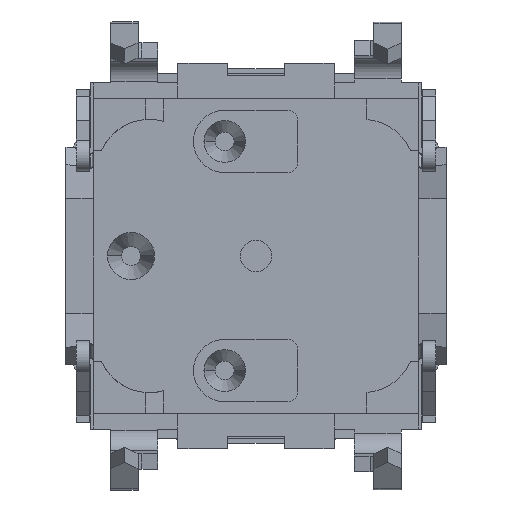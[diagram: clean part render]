
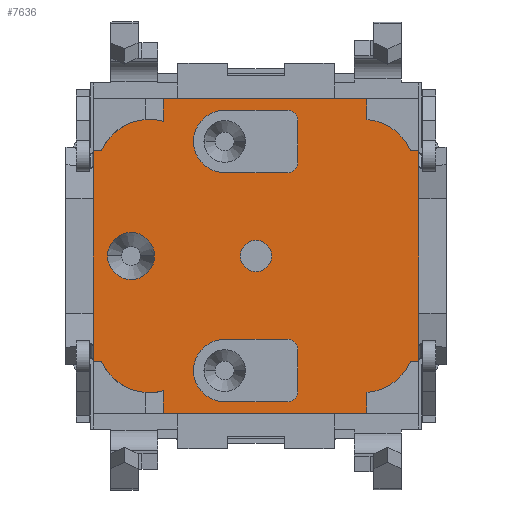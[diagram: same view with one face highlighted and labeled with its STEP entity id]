
A CAD part, front view. The second image highlights one B-rep face of the part: STEP entity #7636.
In plain terms, the highlighted planar face has unit normal (0, -1, 0).
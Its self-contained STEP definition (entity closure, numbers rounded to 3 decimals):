
#30=CARTESIAN_POINT('',(-2.05,-1.11,1.625));
#31=DIRECTION('',(0.,-1.,0.));
#32=DIRECTION('',(0.27,0.,0.963));
#33=AXIS2_PLACEMENT_3D('',#30,#31,#32);
#48=DIRECTION('',(0.,0.,1.));
#49=VECTOR('',#48,0.432);
#50=CARTESIAN_POINT('',(-1.78,-1.11,2.588));
#51=LINE('',#50,#49);
#52=DIRECTION('',(0.,0.,1.));
#53=VECTOR('',#52,0.398);
#54=CARTESIAN_POINT('',(2.13,-1.11,2.622));
#55=LINE('',#54,#53);
#56=CARTESIAN_POINT('',(2.05,-1.11,1.625));
#57=DIRECTION('',(0.,-1.,0.));
#58=DIRECTION('',(0.919,0.,0.395));
#59=AXIS2_PLACEMENT_3D('',#56,#57,#58);
#61=DIRECTION('',(-1.,0.,0.));
#62=VECTOR('',#61,0.161);
#63=CARTESIAN_POINT('',(3.13,-1.11,2.02));
#64=LINE('',#63,#62);
#65=DIRECTION('',(1.,0.,0.));
#66=VECTOR('',#65,0.161);
#67=CARTESIAN_POINT('',(2.969,-1.11,-2.02));
#68=LINE('',#67,#66);
#69=CARTESIAN_POINT('',(2.05,-1.11,-1.625));
#70=DIRECTION('',(0.,-1.,0.));
#71=DIRECTION('',(0.08,0.,-0.997));
#72=AXIS2_PLACEMENT_3D('',#69,#70,#71);
#74=DIRECTION('',(0.,0.,1.));
#75=VECTOR('',#74,0.398);
#76=CARTESIAN_POINT('',(2.13,-1.11,-3.02));
#77=LINE('',#76,#75);
#78=DIRECTION('',(0.,0.,1.));
#79=VECTOR('',#78,0.432);
#80=CARTESIAN_POINT('',(-1.78,-1.11,-3.02));
#81=LINE('',#80,#79);
#82=DIRECTION('',(1.,0.,0.));
#83=VECTOR('',#82,0.161);
#84=CARTESIAN_POINT('',(-3.13,-1.11,-2.02));
#85=LINE('',#84,#83);
#86=DIRECTION('',(-1.,0.,0.));
#87=VECTOR('',#86,0.161);
#88=CARTESIAN_POINT('',(-2.969,-1.11,2.02));
#89=LINE('',#88,#87);
#90=CARTESIAN_POINT('',(-2.4,-1.11,0.));
#91=DIRECTION('',(0.,1.,0.));
#92=DIRECTION('',(1.,0.,0.));
#93=AXIS2_PLACEMENT_3D('',#90,#91,#92);
#95=CARTESIAN_POINT('',(-2.4,-1.11,0.));
#96=DIRECTION('',(0.,-1.,0.));
#97=DIRECTION('',(1.,0.,0.));
#98=AXIS2_PLACEMENT_3D('',#95,#96,#97);
#100=CARTESIAN_POINT('',(0.,-1.11,0.));
#101=DIRECTION('',(0.,-1.,0.));
#102=DIRECTION('',(-1.,0.,0.));
#103=AXIS2_PLACEMENT_3D('',#100,#101,#102);
#105=CARTESIAN_POINT('',(0.,-1.11,0.));
#106=DIRECTION('',(0.,-1.,0.));
#107=DIRECTION('',(1.,0.,0.));
#108=AXIS2_PLACEMENT_3D('',#105,#106,#107);
#110=DIRECTION('',(1.,0.,0.));
#111=VECTOR('',#110,1.2);
#112=CARTESIAN_POINT('',(-0.6,-1.11,-2.8));
#113=LINE('',#112,#111);
#114=DIRECTION('',(0.,0.,1.));
#115=VECTOR('',#114,0.8);
#116=CARTESIAN_POINT('',(0.8,-1.11,-2.6));
#117=LINE('',#116,#115);
#118=DIRECTION('',(-1.,0.,0.));
#119=VECTOR('',#118,1.2);
#120=CARTESIAN_POINT('',(0.6,-1.11,-1.6));
#121=LINE('',#120,#119);
#122=CARTESIAN_POINT('',(-0.6,-1.11,-2.2));
#123=DIRECTION('',(0.,-1.,0.));
#124=DIRECTION('',(0.,0.,1.));
#125=AXIS2_PLACEMENT_3D('',#122,#123,#124);
#127=DIRECTION('',(0.,0.,1.));
#128=VECTOR('',#127,0.8);
#129=CARTESIAN_POINT('',(0.8,-1.11,1.8));
#130=LINE('',#129,#128);
#131=DIRECTION('',(-1.,0.,0.));
#132=VECTOR('',#131,1.2);
#133=CARTESIAN_POINT('',(0.6,-1.11,2.8));
#134=LINE('',#133,#132);
#135=CARTESIAN_POINT('',(-0.6,-1.11,2.2));
#136=DIRECTION('',(0.,-1.,0.));
#137=DIRECTION('',(0.,0.,1.));
#138=AXIS2_PLACEMENT_3D('',#135,#136,#137);
#140=DIRECTION('',(1.,0.,0.));
#141=VECTOR('',#140,1.2);
#142=CARTESIAN_POINT('',(-0.6,-1.11,1.6));
#143=LINE('',#142,#141);
#168=DIRECTION('',(-1.,0.,0.));
#169=VECTOR('',#168,3.91);
#170=CARTESIAN_POINT('',(2.13,-1.11,3.02));
#171=LINE('',#170,#169);
#204=DIRECTION('',(0.,0.,-1.));
#205=VECTOR('',#204,4.04);
#206=CARTESIAN_POINT('',(-3.13,-1.11,2.02));
#207=LINE('',#206,#205);
#332=DIRECTION('',(1.,0.,0.));
#333=VECTOR('',#332,3.91);
#334=CARTESIAN_POINT('',(-1.78,-1.11,-3.02));
#335=LINE('',#334,#333);
#381=CARTESIAN_POINT('',(-2.05,-1.11,-1.625));
#382=DIRECTION('',(0.,-1.,0.));
#383=DIRECTION('',(-0.919,0.,-0.395));
#384=AXIS2_PLACEMENT_3D('',#381,#382,#383);
#448=DIRECTION('',(0.,0.,1.));
#449=VECTOR('',#448,4.04);
#450=CARTESIAN_POINT('',(3.13,-1.11,-2.02));
#451=LINE('',#450,#449);
#5619=CARTESIAN_POINT('',(0.6,-1.11,-2.6));
#5620=DIRECTION('',(0.,1.,0.));
#5621=DIRECTION('',(1.,0.,0.));
#5622=AXIS2_PLACEMENT_3D('',#5619,#5620,#5621);
#5637=CARTESIAN_POINT('',(0.6,-1.11,-1.8));
#5638=DIRECTION('',(0.,1.,0.));
#5639=DIRECTION('',(0.,0.,1.));
#5640=AXIS2_PLACEMENT_3D('',#5637,#5638,#5639);
#5704=CARTESIAN_POINT('',(0.6,-1.11,2.6));
#5705=DIRECTION('',(0.,1.,0.));
#5706=DIRECTION('',(0.,0.,1.));
#5707=AXIS2_PLACEMENT_3D('',#5704,#5705,#5706);
#5749=CARTESIAN_POINT('',(0.6,-1.11,1.8));
#5750=DIRECTION('',(0.,1.,0.));
#5751=DIRECTION('',(1.,0.,0.));
#5752=AXIS2_PLACEMENT_3D('',#5749,#5750,#5751);
#5839=CARTESIAN_POINT('',(-0.6,-1.11,-1.6));
#5840=VERTEX_POINT('',#5839);
#5841=CARTESIAN_POINT('',(-0.6,-1.11,-2.8));
#5842=VERTEX_POINT('',#5841);
#5897=CARTESIAN_POINT('',(-0.6,-1.11,2.8));
#5898=VERTEX_POINT('',#5897);
#5899=CARTESIAN_POINT('',(-0.6,-1.11,1.6));
#5900=VERTEX_POINT('',#5899);
#5909=CARTESIAN_POINT('',(2.969,-1.11,2.02));
#5910=CARTESIAN_POINT('',(2.13,-1.11,2.622));
#5911=VERTEX_POINT('',#5909);
#5912=VERTEX_POINT('',#5910);
#5913=CARTESIAN_POINT('',(2.13,-1.11,-2.622));
#5914=CARTESIAN_POINT('',(2.969,-1.11,-2.02));
#5915=VERTEX_POINT('',#5913);
#5916=VERTEX_POINT('',#5914);
#6015=CARTESIAN_POINT('',(0.6,-1.11,-1.6));
#6017=VERTEX_POINT('',#6015);
#6019=CARTESIAN_POINT('',(0.8,-1.11,-1.8));
#6021=VERTEX_POINT('',#6019);
#6023=CARTESIAN_POINT('',(0.8,-1.11,-2.6));
#6025=VERTEX_POINT('',#6023);
#6027=CARTESIAN_POINT('',(0.6,-1.11,-2.8));
#6029=VERTEX_POINT('',#6027);
#6031=CARTESIAN_POINT('',(0.6,-1.11,2.8));
#6033=VERTEX_POINT('',#6031);
#6035=CARTESIAN_POINT('',(0.8,-1.11,2.6));
#6037=VERTEX_POINT('',#6035);
#6039=CARTESIAN_POINT('',(0.8,-1.11,1.8));
#6041=VERTEX_POINT('',#6039);
#6043=CARTESIAN_POINT('',(0.6,-1.11,1.6));
#6045=VERTEX_POINT('',#6043);
#6047=CARTESIAN_POINT('',(-3.13,-1.11,2.02));
#6048=CARTESIAN_POINT('',(-3.13,-1.11,-2.02));
#6049=VERTEX_POINT('',#6047);
#6050=VERTEX_POINT('',#6048);
#6051=CARTESIAN_POINT('',(3.13,-1.11,-2.02));
#6052=CARTESIAN_POINT('',(3.13,-1.11,2.02));
#6053=VERTEX_POINT('',#6051);
#6054=VERTEX_POINT('',#6052);
#6055=CARTESIAN_POINT('',(-2.969,-1.11,2.02));
#6056=VERTEX_POINT('',#6055);
#6057=CARTESIAN_POINT('',(2.13,-1.11,3.02));
#6058=VERTEX_POINT('',#6057);
#6059=CARTESIAN_POINT('',(-2.969,-1.11,-2.02));
#6060=VERTEX_POINT('',#6059);
#6061=CARTESIAN_POINT('',(2.13,-1.11,-3.02));
#6062=VERTEX_POINT('',#6061);
#6117=CARTESIAN_POINT('',(-1.78,-1.11,2.588));
#6118=CARTESIAN_POINT('',(-1.78,-1.11,3.02));
#6119=VERTEX_POINT('',#6117);
#6120=VERTEX_POINT('',#6118);
#6125=CARTESIAN_POINT('',(-1.78,-1.11,-3.02));
#6126=CARTESIAN_POINT('',(-1.78,-1.11,-2.588));
#6127=VERTEX_POINT('',#6125);
#6128=VERTEX_POINT('',#6126);
#6145=CARTESIAN_POINT('',(-0.3,-1.11,0.));
#6146=CARTESIAN_POINT('',(0.3,-1.11,0.));
#6147=VERTEX_POINT('',#6145);
#6148=VERTEX_POINT('',#6146);
#6165=CARTESIAN_POINT('',(-1.95,-1.11,0.));
#6166=CARTESIAN_POINT('',(-2.85,-1.11,0.));
#6167=VERTEX_POINT('',#6165);
#6168=VERTEX_POINT('',#6166);
#7560=CARTESIAN_POINT('',(0.,-1.11,0.));
#7561=DIRECTION('',(0.,-1.,0.));
#7562=DIRECTION('',(1.,0.,0.));
#7563=AXIS2_PLACEMENT_3D('',#7560,#7561,#7562);
#7564=PLANE('',#7563);
#7565=ORIENTED_EDGE('',*,*,#7551,.T.);
#7567=ORIENTED_EDGE('',*,*,#7566,.F.);
#7569=ORIENTED_EDGE('',*,*,#7568,.F.);
#7571=ORIENTED_EDGE('',*,*,#7570,.F.);
#7573=ORIENTED_EDGE('',*,*,#7572,.F.);
#7575=ORIENTED_EDGE('',*,*,#7574,.F.);
#7577=ORIENTED_EDGE('',*,*,#7576,.F.);
#7579=ORIENTED_EDGE('',*,*,#7578,.F.);
#7581=ORIENTED_EDGE('',*,*,#7580,.F.);
#7583=ORIENTED_EDGE('',*,*,#7582,.F.);
#7585=ORIENTED_EDGE('',*,*,#7584,.T.);
#7587=ORIENTED_EDGE('',*,*,#7586,.F.);
#7589=ORIENTED_EDGE('',*,*,#7588,.F.);
#7591=ORIENTED_EDGE('',*,*,#7590,.F.);
#7592=ORIENTED_EDGE('',*,*,#7509,.F.);
#7593=ORIENTED_EDGE('',*,*,#7525,.F.);
#7594=EDGE_LOOP('',(#7565,#7567,#7569,#7571,#7573,#7575,#7577,#7579,#7581,#7583,
#7585,#7587,#7589,#7591,#7592,#7593));
#7595=FACE_OUTER_BOUND('',#7594,.F.);
#7597=ORIENTED_EDGE('',*,*,#7596,.F.);
#7599=ORIENTED_EDGE('',*,*,#7598,.T.);
#7600=EDGE_LOOP('',(#7597,#7599));
#7601=FACE_BOUND('',#7600,.F.);
#7603=ORIENTED_EDGE('',*,*,#7602,.T.);
#7605=ORIENTED_EDGE('',*,*,#7604,.T.);
#7606=EDGE_LOOP('',(#7603,#7605));
#7607=FACE_BOUND('',#7606,.F.);
#7609=ORIENTED_EDGE('',*,*,#7608,.T.);
#7611=ORIENTED_EDGE('',*,*,#7610,.F.);
#7613=ORIENTED_EDGE('',*,*,#7612,.T.);
#7615=ORIENTED_EDGE('',*,*,#7614,.F.);
#7617=ORIENTED_EDGE('',*,*,#7616,.T.);
#7619=ORIENTED_EDGE('',*,*,#7618,.T.);
#7620=EDGE_LOOP('',(#7609,#7611,#7613,#7615,#7617,#7619));
#7621=FACE_BOUND('',#7620,.F.);
#7623=ORIENTED_EDGE('',*,*,#7622,.T.);
#7625=ORIENTED_EDGE('',*,*,#7624,.F.);
#7627=ORIENTED_EDGE('',*,*,#7626,.T.);
#7629=ORIENTED_EDGE('',*,*,#7628,.T.);
#7631=ORIENTED_EDGE('',*,*,#7630,.T.);
#7633=ORIENTED_EDGE('',*,*,#7632,.F.);
#7634=EDGE_LOOP('',(#7623,#7625,#7627,#7629,#7631,#7633));
#7635=FACE_BOUND('',#7634,.F.);
#7636=ADVANCED_FACE('',(#7595,#7601,#7607,#7621,#7635),#7564,.T.);
#34=CIRCLE('',#33,1.);
#60=CIRCLE('',#59,1.);
#73=CIRCLE('',#72,1.);
#94=CIRCLE('',#93,0.45);
#99=CIRCLE('',#98,0.45);
#104=CIRCLE('',#103,0.3);
#109=CIRCLE('',#108,0.3);
#126=CIRCLE('',#125,0.6);
#139=CIRCLE('',#138,0.6);
#385=CIRCLE('',#384,1.);
#5623=CIRCLE('',#5622,0.2);
#5641=CIRCLE('',#5640,0.2);
#5708=CIRCLE('',#5707,0.2);
#5753=CIRCLE('',#5752,0.2);
#7509=EDGE_CURVE('',#6056,#6049,#89,.T.);
#7525=EDGE_CURVE('',#6119,#6056,#34,.T.);
#7551=EDGE_CURVE('',#6119,#6120,#51,.T.);
#7566=EDGE_CURVE('',#6058,#6120,#171,.T.);
#7568=EDGE_CURVE('',#5912,#6058,#55,.T.);
#7570=EDGE_CURVE('',#5911,#5912,#60,.T.);
#7572=EDGE_CURVE('',#6054,#5911,#64,.T.);
#7574=EDGE_CURVE('',#6053,#6054,#451,.T.);
#7576=EDGE_CURVE('',#5916,#6053,#68,.T.);
#7578=EDGE_CURVE('',#5915,#5916,#73,.T.);
#7580=EDGE_CURVE('',#6062,#5915,#77,.T.);
#7582=EDGE_CURVE('',#6127,#6062,#335,.T.);
#7584=EDGE_CURVE('',#6127,#6128,#81,.T.);
#7586=EDGE_CURVE('',#6060,#6128,#385,.T.);
#7588=EDGE_CURVE('',#6050,#6060,#85,.T.);
#7590=EDGE_CURVE('',#6049,#6050,#207,.T.);
#7596=EDGE_CURVE('',#6167,#6168,#94,.T.);
#7598=EDGE_CURVE('',#6167,#6168,#99,.T.);
#7602=EDGE_CURVE('',#6147,#6148,#104,.T.);
#7604=EDGE_CURVE('',#6148,#6147,#109,.T.);
#7608=EDGE_CURVE('',#5842,#6029,#113,.T.);
#7610=EDGE_CURVE('',#6025,#6029,#5623,.T.);
#7612=EDGE_CURVE('',#6025,#6021,#117,.T.);
#7614=EDGE_CURVE('',#6017,#6021,#5641,.T.);
#7616=EDGE_CURVE('',#6017,#5840,#121,.T.);
#7618=EDGE_CURVE('',#5840,#5842,#126,.T.);
#7622=EDGE_CURVE('',#6041,#6037,#130,.T.);
#7624=EDGE_CURVE('',#6033,#6037,#5708,.T.);
#7626=EDGE_CURVE('',#6033,#5898,#134,.T.);
#7628=EDGE_CURVE('',#5898,#5900,#139,.T.);
#7630=EDGE_CURVE('',#5900,#6045,#143,.T.);
#7632=EDGE_CURVE('',#6041,#6045,#5753,.T.);
